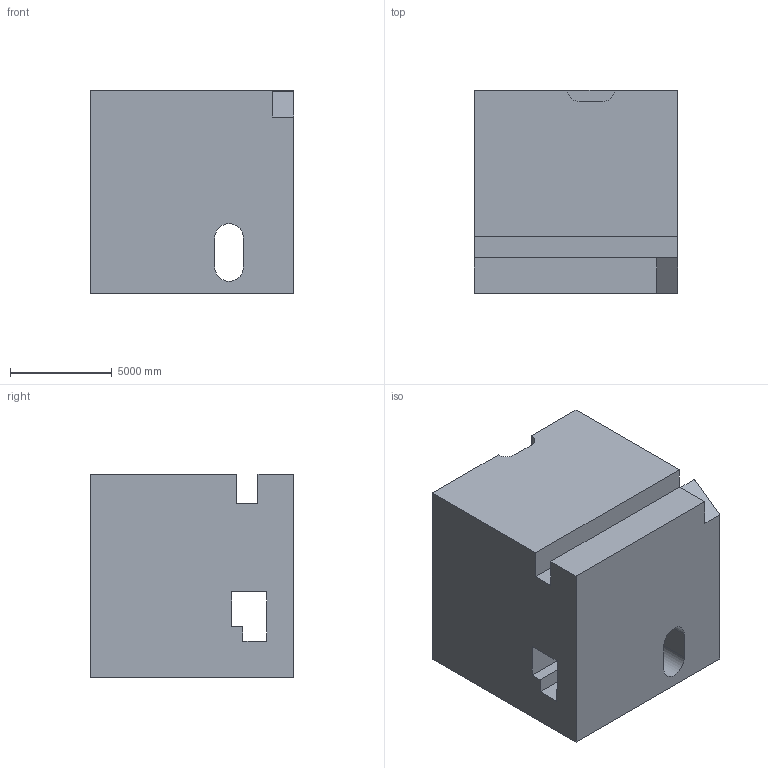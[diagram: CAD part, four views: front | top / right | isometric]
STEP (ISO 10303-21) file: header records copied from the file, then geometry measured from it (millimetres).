
FILE_DESCRIPTION (( 'STEP AP203' ), '1' );
FILE_NAME ('590.STEP', '2022-07-29T11:58:25', ( 'user' ), ( '' ), 'SwSTEP 2.0', 'SolidWorks 2021', '' );
FILE_SCHEMA (( 'CONFIG_CONTROL_DESIGN' ));
Length unit declared in the file: centimetre
Products named in the file (1): 590
Bounding box: 10000 x 10000 x 10000 mm (x, y, z)
Volume: 907981480868.9 mm3; surface area: 755874291.6 mm2
Topology: 1 solids, 1 shells, 36 faces, 108 edges, 72 vertices
Faces by surface type: plane 29, cylinder 7
Entity records: 1295 total; most frequent: CARTESIAN_POINT 217, ORIENTED_EDGE 216, DIRECTION 196, EDGE_CURVE 108, LINE 94, VECTOR 94, VERTEX_POINT 72, AXIS2_PLACEMENT_3D 51
